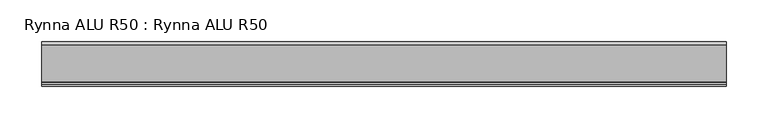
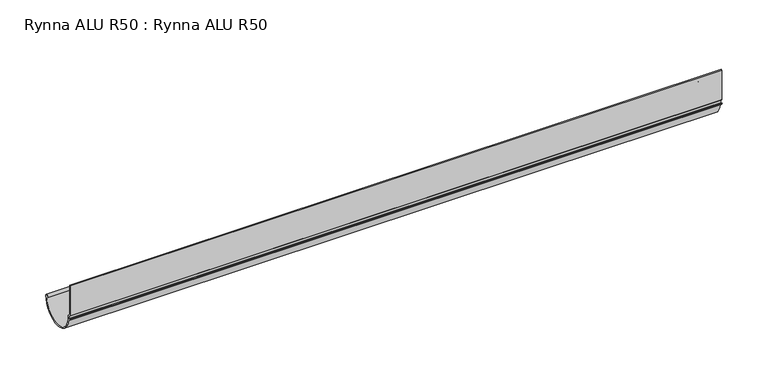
"""IFC4 building model written with IfcOpenShell, lengths in millimetres: proxy geometry, Rynna ALU R50 : Rynna ALU R50."""

from ifc_helpers import new_model, si_unit, point, frame, frame_2d, origin, place, context, project, spatial, polyline, circle_curve, trimmed, segment, composite_curve, outline, extrude, source, transform, mapped, element, save


def rynna_alu_r50_rynna_alu_r50_f6262e87(model_context):
    return source(origin(), model_context, "Body", "SweptSolid", [
        extrude(outline(composite_curve([segment(polyline([(-0.6978396, 0.0), (0.7021617, 0.0), (0.7021617, -38.7702547), (3.0707013, -41.065916), (3.9370468, -46.8196069)]), True, "CONTINUOUS"), segment(trimmed(circle_curve(frame_2d((27.3646611, -44.302303)), 23.5624686), [point((3.9370468, -46.8196069))], [point((50.8512717, -46.1914952))], True, "CARTESIAN"), True, "CONTINUOUS"), segment(trimmed(circle_curve(frame_2d((50.3771937, -44.3000011)), 1.95), [point((50.8512717, -46.1914952))], [point((52.3271923, -44.302303))], False, "CARTESIAN"), True, "CONTINUOUS"), segment(trimmed(circle_curve(frame_2d((27.3646611, -44.302303)), 24.9625312), [point((52.3271923, -44.302303))], [point((2.6292486, -47.6619658))], False, "CARTESIAN"), True, "CONTINUOUS"), segment(polyline([(2.6292486, -47.6619658), (-0.1767814, -46.0765907), (-0.9565767, -44.1281649), (2.328284, -45.5225054), (1.8149767, -41.8701356), (-0.6978396, -39.5252625), (-0.6978396, 0.0)]), True, "CONTINUOUS")], self_intersect=False)), frame((-410.0, 0.0, 0.0), z_axis=(1.0, 0.0, 0.0), x_axis=(0.0, 1.0, 0.0)), (0.0, 0.0, 1.0), 820.0),
    ])


if __name__ == "__main__":
    model = new_model("IFC4")
    model_context = context("Model", 3, world=origin())
    ifc_project = project(units=[si_unit("LENGTHUNIT", "METRE", prefix="MILLI")], contexts=[model_context])
    site = spatial("IfcSite", under=ifc_project)
    building = spatial("IfcBuilding", under=site)
    placement = place(None, origin())
    rynna_alu_r50_rynna_alu_r50_shape = rynna_alu_r50_rynna_alu_r50_f6262e87(model_context)
    element("IfcBuildingElementProxy", 1, Name="Rynna ALU R50 : Rynna ALU R50", ObjectType="Rynna ALU R50 : Rynna ALU R50", at=placement, inside=building, context=model_context, shape_type="MappedRepresentation", body=[
        mapped(rynna_alu_r50_rynna_alu_r50_shape, transform((0.0, 0.0, 0.0), x_axis=(1.0, 0.0, 0.0), y_axis=(0.0, 1.0, 0.0), z_axis=(0.0, 0.0, 1.0))),
    ])
    save(model, "model.ifc")
